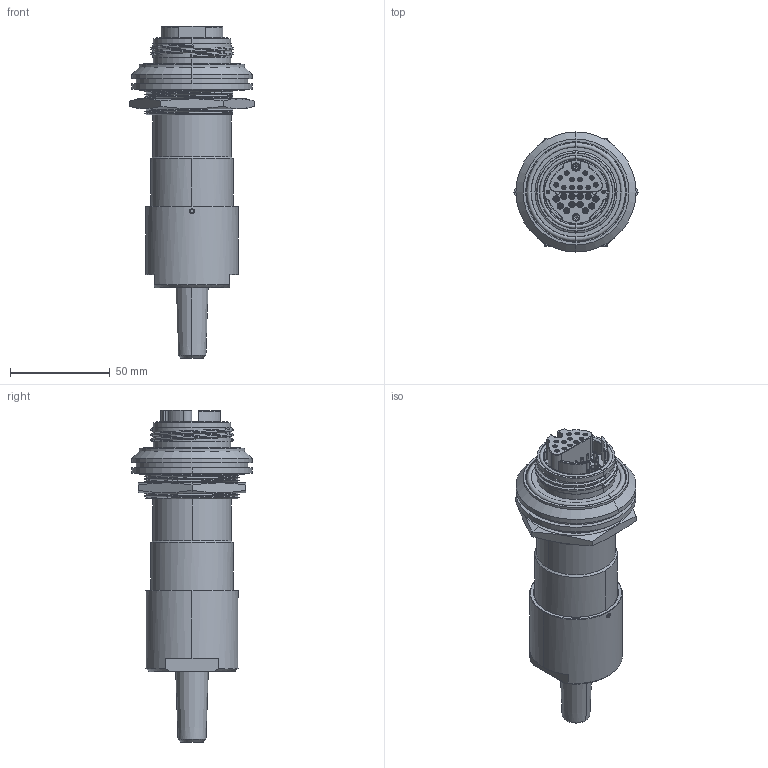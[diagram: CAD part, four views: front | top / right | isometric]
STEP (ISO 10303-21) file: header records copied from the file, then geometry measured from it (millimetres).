
FILE_DESCRIPTION (( 'STEP AP214' ), '1' );
FILE_NAME ('QFOCA3-RLFX-24X-X-SX.STEP', '2025-08-05T21:25:37', ( '' ), ( '' ), 'SwSTEP 2.0', 'SolidWorks 2024', '' );
FILE_SCHEMA (( 'AUTOMOTIVE_DESIGN' ));
Length unit declared in the file: inch
Products named in the file (1): QFOCA3-RLFX-24X-X-SX
Bounding box: 62.33 x 60.07 x 166.04 mm (x, y, z)
Volume: 199593 mm3; surface area: 43258.9 mm2
Topology: 17 solids, 26 shells, 1241 faces, 2817 edges, 1680 vertices
Faces by surface type: cylinder 421, cone 308, torus 252, plane 220, bspline 40
Entity records: 45648 total; most frequent: CARTESIAN_POINT 17351, DIRECTION 6379, ORIENTED_EDGE 5630, EDGE_CURVE 2815, AXIS2_PLACEMENT_3D 2718, VERTEX_POINT 1680, CIRCLE 1516, EDGE_LOOP 1349
